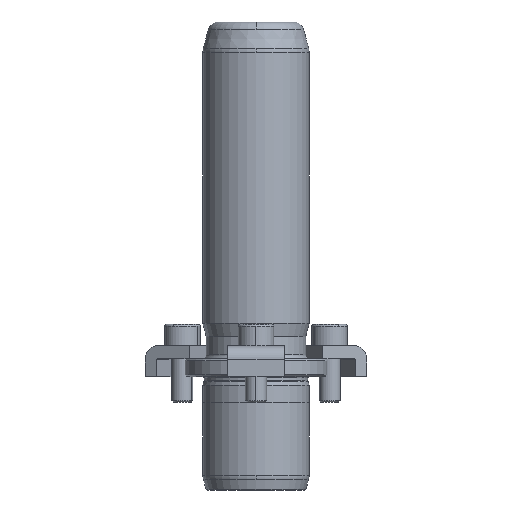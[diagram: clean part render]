
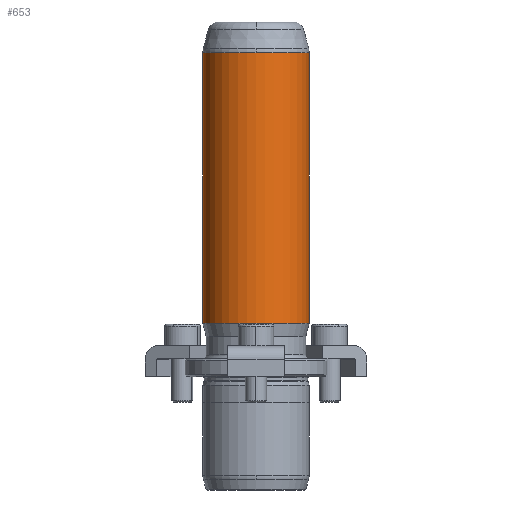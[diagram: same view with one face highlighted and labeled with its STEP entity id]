
A CAD part, front view. The second image highlights one B-rep face of the part: STEP entity #653.
In plain terms, the highlighted cylindrical face has radius 15 mm (diameter 30 mm), a partial arc.
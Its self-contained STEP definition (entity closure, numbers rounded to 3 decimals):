
#566=CARTESIAN_POINT('',(0.0,-15.,91.342));
#567=VERTEX_POINT('',#566);
#594=CARTESIAN_POINT('',(-15.0,0.,91.342));
#595=VERTEX_POINT('',#594);
#603=CARTESIAN_POINT('',(0.0,0.,91.342));
#604=DIRECTION('',(0.0,0.0,1.0));
#605=DIRECTION('',(1.0,0.0,0.0));
#606=AXIS2_PLACEMENT_3D('',#603,#604,#605);
#607=CIRCLE('',#606,15.0);
#608=EDGE_CURVE('',#595,#567,#607,.T.);
#613=CARTESIAN_POINT('',(0.0,0.,53.171));
#614=DIRECTION('',(0.0,0.,1.0));
#615=DIRECTION('',(1.0,0.0,0.0));
#616=AXIS2_PLACEMENT_3D('',#613,#614,#615);
#617=CYLINDRICAL_SURFACE('',#616,15.0);
#618=CARTESIAN_POINT('',(15.0,0.,91.342));
#619=VERTEX_POINT('',#618);
#620=CARTESIAN_POINT('',(15.0,0.,15.0));
#621=VERTEX_POINT('',#620);
#622=CARTESIAN_POINT('',(15.0,0.,91.342));
#623=DIRECTION('',(0.0,0.0,-1.0));
#624=VECTOR('',#623,76.342);
#625=LINE('',#622,#624);
#626=EDGE_CURVE('',#619,#621,#625,.T.);
#627=ORIENTED_EDGE('',*,*,#626,.F.);
#628=CARTESIAN_POINT('',(0.0,0.,91.342));
#629=DIRECTION('',(0.0,0.0,1.0));
#630=DIRECTION('',(1.0,0.0,0.0));
#631=AXIS2_PLACEMENT_3D('',#628,#629,#630);
#632=CIRCLE('',#631,15.0);
#633=EDGE_CURVE('',#567,#619,#632,.T.);
#634=ORIENTED_EDGE('',*,*,#633,.F.);
#635=ORIENTED_EDGE('',*,*,#608,.F.);
#636=CARTESIAN_POINT('',(-15.0,0.,15.0));
#637=VERTEX_POINT('',#636);
#638=CARTESIAN_POINT('',(-15.0,0.,91.342));
#639=DIRECTION('',(0.0,0.0,-1.0));
#640=VECTOR('',#639,76.342);
#641=LINE('',#638,#640);
#642=EDGE_CURVE('',#595,#637,#641,.T.);
#643=ORIENTED_EDGE('',*,*,#642,.T.);
#644=CARTESIAN_POINT('',(0.0,0.,15.0));
#645=DIRECTION('',(0.0,0.0,1.0));
#646=DIRECTION('',(1.0,0.0,0.0));
#647=AXIS2_PLACEMENT_3D('',#644,#645,#646);
#648=CIRCLE('',#647,15.0);
#649=EDGE_CURVE('',#637,#621,#648,.T.);
#650=ORIENTED_EDGE('',*,*,#649,.T.);
#651=EDGE_LOOP('',(#627,#634,#635,#643,#650));
#652=FACE_OUTER_BOUND('',#651,.T.);
#653=ADVANCED_FACE('',(#652),#617,.T.);
